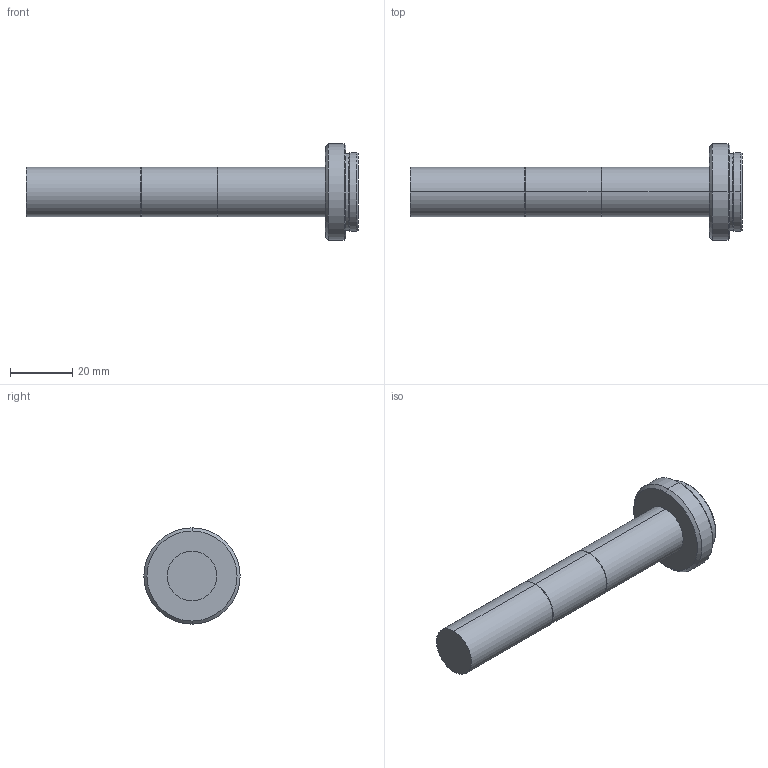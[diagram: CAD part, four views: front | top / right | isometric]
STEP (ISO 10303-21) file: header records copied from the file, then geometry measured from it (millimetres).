
FILE_DESCRIPTION (( 'STEP AP203' ), '1' );
FILE_NAME ('VS-TC3-110.STEP', '2020-02-13T01:25:58', ( '' ), ( '' ), 'SwSTEP 2.0', 'SolidWorks 2017', '' );
FILE_SCHEMA (( 'CONFIG_CONTROL_DESIGN' ));
Length unit declared in the file: millimetre
Products named in the file (1): VS-TC3-110
Bounding box: 106.9 x 31 x 31 mm (x, y, z)
Volume: 26210.5 mm3; surface area: 7250.9 mm2
Topology: 1 solids, 1 shells, 32 faces, 62 edges, 34 vertices
Faces by surface type: cone 16, cylinder 12, plane 4
Entity records: 881 total; most frequent: DIRECTION 162, CARTESIAN_POINT 129, ORIENTED_EDGE 124, AXIS2_PLACEMENT_3D 67, EDGE_CURVE 62, VERTEX_POINT 34, EDGE_LOOP 34, CIRCLE 34
